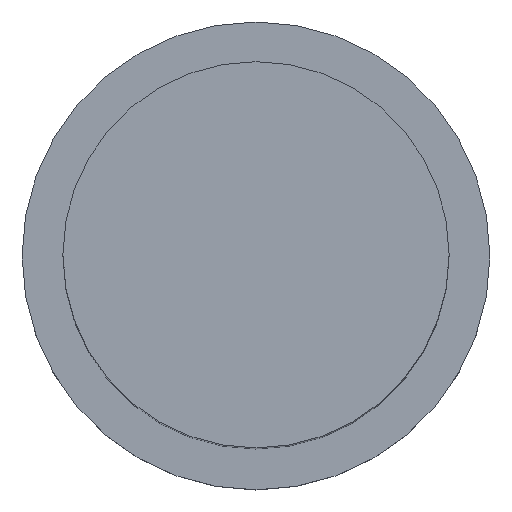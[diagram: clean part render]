
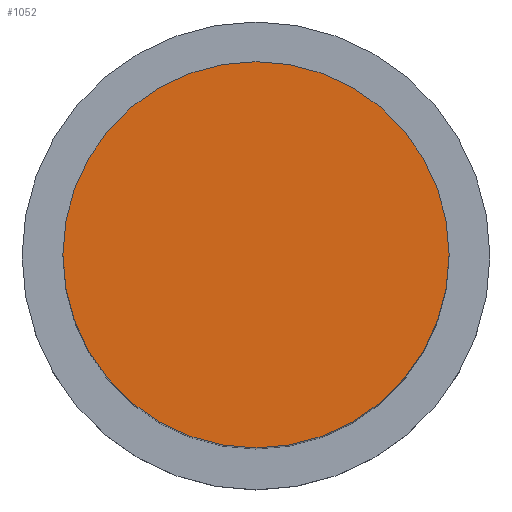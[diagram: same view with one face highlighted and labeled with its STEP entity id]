
A CAD part, top view. The second image highlights one B-rep face of the part: STEP entity #1052.
In plain terms, the highlighted planar face has unit normal (0, 0, 1).
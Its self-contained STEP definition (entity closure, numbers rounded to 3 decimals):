
#909 = CYLINDRICAL_SURFACE('',#910,2.413);
#910 = AXIS2_PLACEMENT_3D('',#911,#912,#913);
#911 = CARTESIAN_POINT('',(0.,1.27,0.89));
#912 = DIRECTION('',(-0.,-0.,-1.));
#913 = DIRECTION('',(1.,0.,0.));
#936 = CYLINDRICAL_SURFACE('',#937,2.413);
#937 = AXIS2_PLACEMENT_3D('',#938,#939,#940);
#938 = CARTESIAN_POINT('',(0.,1.27,0.89));
#939 = DIRECTION('',(-0.,-0.,-1.));
#940 = DIRECTION('',(1.,0.,0.));
#952 = VERTEX_POINT('',#953);
#953 = CARTESIAN_POINT('',(0.,-1.143,9.19));
#974 = EDGE_CURVE('',#952,#975,#977,.T.);
#975 = VERTEX_POINT('',#976);
#976 = CARTESIAN_POINT('',(0.,3.683,9.19));
#977 = SURFACE_CURVE('',#978,(#983,#990),.PCURVE_S1.);
#978 = CIRCLE('',#979,2.413);
#979 = AXIS2_PLACEMENT_3D('',#980,#981,#982);
#980 = CARTESIAN_POINT('',(0.,1.27,9.19));
#981 = DIRECTION('',(0.,0.,1.));
#982 = DIRECTION('',(1.,0.,0.));
#983 = PCURVE('',#909,#984);
#984 = DEFINITIONAL_REPRESENTATION('',(#985),#989);
#985 = LINE('',#986,#987);
#986 = CARTESIAN_POINT('',(-0.,-8.3));
#987 = VECTOR('',#988,1.);
#988 = DIRECTION('',(-1.,0.));
#989 = ( GEOMETRIC_REPRESENTATION_CONTEXT(2) 
PARAMETRIC_REPRESENTATION_CONTEXT() REPRESENTATION_CONTEXT('2D SPACE',''
  ) );
#990 = PCURVE('',#991,#996);
#991 = PLANE('',#992);
#992 = AXIS2_PLACEMENT_3D('',#993,#994,#995);
#993 = CARTESIAN_POINT('',(0.,1.27,9.19));
#994 = DIRECTION('',(0.,0.,1.));
#995 = DIRECTION('',(0.,1.,0.));
#996 = DEFINITIONAL_REPRESENTATION('',(#997),#1001);
#997 = CIRCLE('',#998,2.413);
#998 = AXIS2_PLACEMENT_2D('',#999,#1000);
#999 = CARTESIAN_POINT('',(0.,0.));
#1000 = DIRECTION('',(0.,-1.));
#1001 = ( GEOMETRIC_REPRESENTATION_CONTEXT(2) 
PARAMETRIC_REPRESENTATION_CONTEXT() REPRESENTATION_CONTEXT('2D SPACE',''
  ) );
#1029 = EDGE_CURVE('',#975,#952,#1030,.T.);
#1030 = SURFACE_CURVE('',#1031,(#1036,#1043),.PCURVE_S1.);
#1031 = CIRCLE('',#1032,2.413);
#1032 = AXIS2_PLACEMENT_3D('',#1033,#1034,#1035);
#1033 = CARTESIAN_POINT('',(0.,1.27,9.19));
#1034 = DIRECTION('',(0.,0.,1.));
#1035 = DIRECTION('',(1.,0.,0.));
#1036 = PCURVE('',#936,#1037);
#1037 = DEFINITIONAL_REPRESENTATION('',(#1038),#1042);
#1038 = LINE('',#1039,#1040);
#1039 = CARTESIAN_POINT('',(-0.,-8.3));
#1040 = VECTOR('',#1041,1.);
#1041 = DIRECTION('',(-1.,0.));
#1042 = ( GEOMETRIC_REPRESENTATION_CONTEXT(2) 
PARAMETRIC_REPRESENTATION_CONTEXT() REPRESENTATION_CONTEXT('2D SPACE',''
  ) );
#1043 = PCURVE('',#991,#1044);
#1044 = DEFINITIONAL_REPRESENTATION('',(#1045),#1049);
#1045 = CIRCLE('',#1046,2.413);
#1046 = AXIS2_PLACEMENT_2D('',#1047,#1048);
#1047 = CARTESIAN_POINT('',(0.,0.));
#1048 = DIRECTION('',(0.,-1.));
#1049 = ( GEOMETRIC_REPRESENTATION_CONTEXT(2) 
PARAMETRIC_REPRESENTATION_CONTEXT() REPRESENTATION_CONTEXT('2D SPACE',''
  ) );
#1052 = ADVANCED_FACE('',(#1053),#991,.T.);
#1053 = FACE_BOUND('',#1054,.T.);
#1054 = EDGE_LOOP('',(#1055,#1056));
#1055 = ORIENTED_EDGE('',*,*,#974,.T.);
#1056 = ORIENTED_EDGE('',*,*,#1029,.T.);
